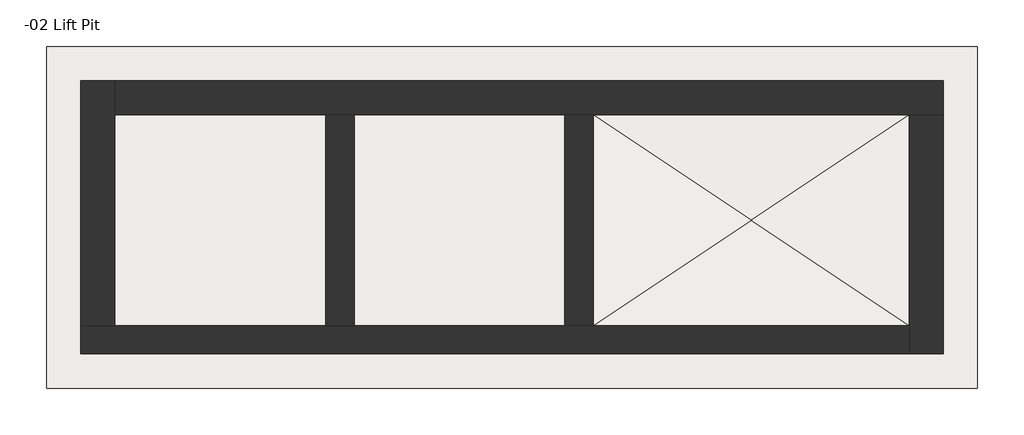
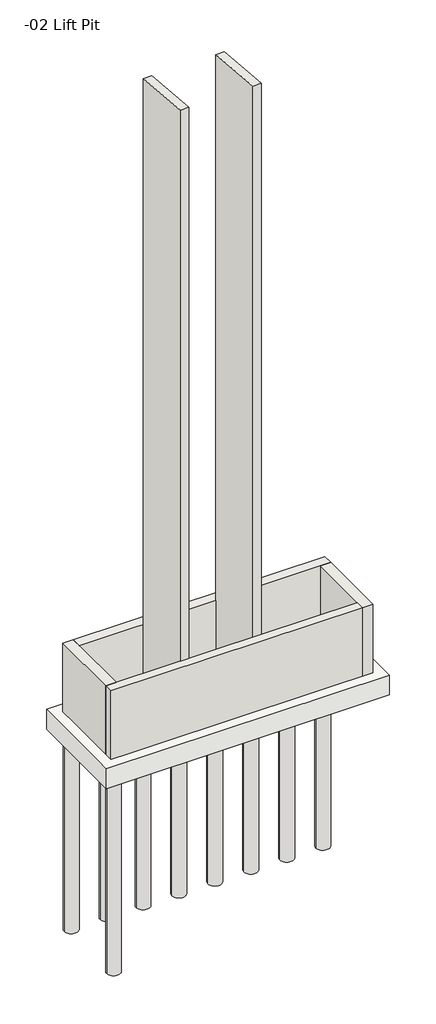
# One storey: 11 slabs, 6 walls.
"""IFC4 building model written with IfcOpenShell, lengths in millimetres."""

import ifcopenshell
import ifcopenshell.guid

model = None  # the IFC model being written
_history = None  # IfcOwnerHistory: only IFC2X3 demands one
_inside = {}  # id of a spatial element -> (the spatial element, [elements in it])
_under = {}  # id of a project, library or spatial element -> (it, [spatial elements below it])
_declared = {}  # id of a project -> (the project, [libraries it declares])
_typed = {}  # id of a type object -> (the type object, [elements of that type])
_made_of = {}  # id of a material, layer set ... -> (it, [elements and type objects made of it])


def new_model(schema):
    """Start an empty IFC model of exactly this schema.

    Asked for "IFC4X3", IfcOpenShell would pick the latest addendum, in which some entities
    have other attributes; the version numbers below select the first issue.
    IFC2X3 requires an IfcOwnerHistory on every rooted entity: one is made here for all.
    """
    global model, _history
    if schema == "IFC4X3":
        model = ifcopenshell.file(schema_version=(4, 3, 0, 0))
    else:
        model = ifcopenshell.file(schema=schema)
    _inside.clear()
    _under.clear()
    _declared.clear()
    _typed.clear()
    _made_of.clear()
    _history = None
    if model.schema == "IFC2X3":
        org = make("IfcOrganization", Name="unknown")
        user = make(
            "IfcPersonAndOrganization",
            ThePerson=make("IfcPerson", FamilyName="unknown"),
            TheOrganization=org,
        )
        app = make(
            "IfcApplication",
            ApplicationDeveloper=org,
            Version="unknown",
            ApplicationFullName="unknown",
            ApplicationIdentifier="unknown",
        )
        _history = make(
            "IfcOwnerHistory",
            OwningUser=user,
            OwningApplication=app,
            ChangeAction="ADDED",
            CreationDate=0,
        )
    return model


def make(cls, **values):
    """One entity of the class cls with the attributes given. An attribute that is None is left unset."""
    return model.create_entity(
        cls, **{name: value for name, value in values.items() if value is not None}
    )


def rooted(cls, **values):
    """An entity with a GlobalId (a new one), such as an element, a storey or a relation."""
    return make(cls, GlobalId=ifcopenshell.guid.new(), OwnerHistory=_history, **values)


def si_unit(unit_type, name, prefix=None):
    """IfcSIUnit, for example si_unit("LENGTHUNIT", "METRE", prefix="MILLI")."""
    return make("IfcSIUnit", UnitType=unit_type, Prefix=prefix, Name=name)


def assignment(units):
    """IfcUnitAssignment: the units of a project."""
    return None if units is None else make("IfcUnitAssignment", Units=units)


def point(xyz):
    """IfcCartesianPoint."""
    return None if xyz is None else make("IfcCartesianPoint", Coordinates=xyz)


def direction(xyz):
    """IfcDirection."""
    return None if xyz is None else make("IfcDirection", DirectionRatios=xyz)


def frame(location, z_axis=None, x_axis=None):
    """IfcAxis2Placement3D, a coordinate frame: its origin and axes. An axis left out is left unset."""
    return make(
        "IfcAxis2Placement3D",
        Location=point(location),
        Axis=direction(z_axis),
        RefDirection=direction(x_axis),
    )


def frame_2d(location, x_axis=None):
    """IfcAxis2Placement2D, a coordinate frame in the plane: its origin and x axis."""
    return make(
        "IfcAxis2Placement2D", Location=point(location), RefDirection=direction(x_axis)
    )


def origin():
    """The frame at (0, 0, 0) with its axes left unset."""
    return frame((0.0, 0.0, 0.0))


def place(relative_to, where):
    """IfcLocalPlacement: puts the frame where relative to a parent placement (None: the world)."""
    return make(
        "IfcLocalPlacement", PlacementRelTo=relative_to, RelativePlacement=where
    )


def context(
    kind, dimensions, precision=None, world=None, true_north=None, identifier=None
):
    """IfcGeometricRepresentationContext, for example the 3D "Model" context."""
    return make(
        "IfcGeometricRepresentationContext",
        ContextIdentifier=identifier,
        ContextType=kind,
        CoordinateSpaceDimension=dimensions,
        Precision=precision,
        WorldCoordinateSystem=world,
        TrueNorth=true_north,
    )


def project(units=None, contexts=None):
    """IfcProject with its units and contexts."""
    return rooted(
        "IfcProject",
        Name="project",
        RepresentationContexts=contexts,
        UnitsInContext=assignment(units),
    )


def spatial(cls, under=None, at=None, **own):
    """A site, building, storey or space (cls), placed at a placement, below another one or the project."""
    s = rooted(cls, ObjectPlacement=at, **own)
    if under is not None:
        _under.setdefault(under.id(), (under, []))[1].append(s)
    return s


def polyline(points):
    """IfcPolyline through the points."""
    return make("IfcPolyline", Points=[point(p) for p in points])


def circle_curve(where, radius):
    """IfcCircle in the frame where."""
    return make("IfcCircle", Position=where, Radius=radius)


def trimmed(basis, trim1, trim2, sense, master):
    """IfcTrimmedCurve: the piece of a basis curve between two trims."""
    return make(
        "IfcTrimmedCurve",
        BasisCurve=basis,
        Trim1=trim1,
        Trim2=trim2,
        SenseAgreement=sense,
        MasterRepresentation=master,
    )


def segment(curve, same_sense, transition):
    """IfcCompositeCurveSegment."""
    return make(
        "IfcCompositeCurveSegment",
        Transition=transition,
        SameSense=same_sense,
        ParentCurve=curve,
    )


def composite_curve(segments, self_intersect=None):
    """IfcCompositeCurve: segments joined end to end."""
    return make("IfcCompositeCurve", Segments=segments, SelfIntersect=self_intersect)


def outline(outer, holes=None, kind="AREA"):
    """IfcArbitraryClosedProfileDef: a profile drawn as a closed curve; with holes, ...WithVoids."""
    if holes is None:
        return make("IfcArbitraryClosedProfileDef", ProfileType=kind, OuterCurve=outer)
    return make(
        "IfcArbitraryProfileDefWithVoids",
        ProfileType=kind,
        OuterCurve=outer,
        InnerCurves=holes,
    )


def extrude(swept, where, along, depth):
    """IfcExtrudedAreaSolid: the profile swept, set in the frame where, extruded along a direction by depth."""
    return make(
        "IfcExtrudedAreaSolid",
        SweptArea=swept,
        Position=where,
        ExtrudedDirection=direction(along),
        Depth=depth,
    )


def faces_of(points, faces, orient=None, outer=None):
    """IfcFace entities. A face is a list of loops; a loop is a list of indices into points, from 0.

    orient and outer hold one flag for each loop. By default every Orientation is true, the
    first loop of a face is its IfcFaceOuterBound and the others are IfcFaceBound.
    """
    made = []
    for i, loops in enumerate(faces):
        bounds = []
        for j, loop in enumerate(loops):
            is_outer = j == 0 if outer is None else outer[i][j]
            bounds.append(
                make(
                    "IfcFaceOuterBound" if is_outer else "IfcFaceBound",
                    Bound=make("IfcPolyLoop", Polygon=[points[k] for k in loop]),
                    Orientation=True if orient is None else orient[i][j],
                )
            )
        made.append(make("IfcFace", Bounds=bounds))
    return made


def faceted_brep(points, faces, orient=None, outer=None, voids=None):
    """IfcFacetedBrep: a solid bounded by flat faces; with voids (closed shells), ...WithVoids."""
    shared = [point(p) for p in points]
    hull = make("IfcClosedShell", CfsFaces=faces_of(shared, faces, orient, outer))
    if voids is None:
        return make("IfcFacetedBrep", Outer=hull)
    return make(
        "IfcFacetedBrepWithVoids",
        Outer=hull,
        Voids=[
            make(cls, CfsFaces=faces_of(shared, fs, o, b)) for cls, fs, o, b in voids
        ],
    )


def shape(context_of_items, identifier, shape_type, items):
    """IfcShapeRepresentation: the items that make up one representation, for example the "Body"."""
    return make(
        "IfcShapeRepresentation",
        ContextOfItems=context_of_items,
        RepresentationIdentifier=identifier,
        RepresentationType=shape_type,
        Items=items,
    )


def made_of(thing, what):
    """Note that an element or type object is made of a material, layer set ...; save() writes the relation."""
    if what is not None:
        _made_of.setdefault(what.id(), (what, []))[1].append(thing)
    return thing


def element(
    cls,
    number,
    at=None,
    inside=None,
    cuts=None,
    type_object=None,
    material=None,
    context=None,
    identifier="Body",
    shape_type=None,
    held_by="IfcProductDefinitionShape",
    body=None,
    shapes=None,
    **own,
):
    """One element of the class cls, such as IfcWall. Its Tag is "e" and its number.

    at: its placement. inside: the storey or other place that contains it. cuts: it is an
    opening in that element (IfcRelVoidsElement). A single representation is given by context,
    identifier, shape_type and body (its items); several are given by shapes. held_by: the class
    of the entity that holds the representations. save() writes the other relations.
    """
    e = rooted(cls, Tag="e%d" % number, ObjectPlacement=at, **own)
    if body is not None:
        shapes = [shape(context, identifier, shape_type, body)]
    if shapes is not None:
        e.Representation = make(held_by, Representations=shapes)
    if inside is not None:
        _inside.setdefault(inside.id(), (inside, []))[1].append(e)
    if cuts is not None:
        rooted(
            "IfcRelVoidsElement", RelatingBuildingElement=cuts, RelatedOpeningElement=e
        )
    if type_object is not None:
        _typed.setdefault(type_object.id(), (type_object, []))[1].append(e)
    return made_of(e, material)


def aggregate(whole, parts):
    """IfcRelAggregates: a whole, such as a stair, and the parts it consists of."""
    return rooted("IfcRelAggregates", RelatingObject=whole, RelatedObjects=parts)


def save(model, path):
    """Write the relations noted so far, then the file.

    IfcRelAggregates (storeys below a building ...), IfcRelContainedInSpatialStructure (elements
    in a storey), IfcRelDefinesByType, IfcRelAssociatesMaterial and IfcRelDeclares: one each for
    every whole, place, type object, material and project.
    """
    for whole, parts in _under.values():
        aggregate(whole, parts)
    for where, things in _inside.values():
        rooted(
            "IfcRelContainedInSpatialStructure",
            RelatedElements=things,
            RelatingStructure=where,
        )
    for kind, things in _typed.values():
        rooted("IfcRelDefinesByType", RelatedObjects=things, RelatingType=kind)
    for what, things in _made_of.values():
        rooted("IfcRelAssociatesMaterial", RelatedObjects=things, RelatingMaterial=what)
    for by, libraries in _declared.values():
        rooted("IfcRelDeclares", RelatingContext=by, RelatedDefinitions=libraries)
    model.write(path)


model = new_model("IFC4")

# Units and contexts
model_context = context("Model", 3, world=origin())
ifc_project = project(units=[si_unit("LENGTHUNIT", "METRE", prefix="MILLI")], contexts=[model_context])

# Site, building, storey
site = spatial("IfcSite", under=ifc_project)
building = spatial("IfcBuilding", under=site)
storey = spatial("IfcBuildingStorey", under=building, Name="-02 Lift Pit", Elevation=-2133.6)

# Slabs
placement = place(None, origin())
element("IfcSlab", 1, ObjectType="24\" Foundation Slab", at=placement, inside=storey, context=model_context, shape_type="SweptSolid", body=[
    extrude(outline(polyline([(18554.7, -2679.7), (18554.7, -5727.7), (10248.9, -5727.7), (10248.9, -2679.7), (18554.7, -2679.7)])), frame((0.0, 0.0, -2743.2), z_axis=(0.0, 0.0, 1.0), x_axis=(1.0, 0.0, 0.0)), (0.0, 0.0, 1.0), 609.6),
])
element("IfcSlab", 2, ObjectType="3\" Screed", at=placement, inside=storey, context=model_context, shape_type="Brep", body=[
    faceted_brep([(17945.1, -3289.3, -2133.6), (17945.1, -5168.9, -2133.6), (15125.7, -5168.9, -2133.6), (15125.7, -3289.3, -2133.6), (17945.1, -3289.3, -2057.4), (17945.1, -5168.9, -2057.4), (15125.7, -5168.9, -2057.4), (15125.7, -3289.3, -2057.4), (16535.4, -4229.1, -2108.2)], [[[0, 1, 2, 3]], [[1, 0, 4, 5]], [[2, 1, 5, 6]], [[3, 2, 6, 7]], [[0, 3, 7, 4]], [[7, 6, 8]], [[5, 4, 8]], [[6, 5, 8]], [[7, 8, 4]]]),
])
element("IfcSlab", 3, ObjectType="Pile-Steel Pipe : 16\" Diameter", at=placement, inside=storey, context=model_context, shape_type="SweptSolid", body=[
    extrude(outline(composite_curve([segment(trimmed(circle_curve(frame_2d((10706.1, -3136.9)), 203.2), [point((10502.9, -3136.9))], [point((10909.3, -3136.9))], False, "CARTESIAN"), True, "CONTINUOUS"), segment(trimmed(circle_curve(frame_2d((10706.1, -3136.9)), 203.2), [point((10909.3, -3136.9))], [point((10502.9, -3136.9))], False, "CARTESIAN"), True, "CONTINUOUS")], self_intersect=False)), frame((0.0, 0.0, -8839.2), z_axis=(0.0, 0.0, 1.0), x_axis=(1.0, 0.0, 0.0)), (0.0, 0.0, 1.0), 6096.0),
])
element("IfcSlab", 4, ObjectType="Pile-Steel Pipe : 16\" Diameter", at=placement, inside=storey, context=model_context, shape_type="SweptSolid", body=[
    extrude(outline(composite_curve([segment(trimmed(circle_curve(frame_2d((10706.1, -5295.9)), 203.2), [point((10502.9, -5295.9))], [point((10909.3, -5295.9))], False, "CARTESIAN"), True, "CONTINUOUS"), segment(trimmed(circle_curve(frame_2d((10706.1, -5295.9)), 203.2), [point((10909.3, -5295.9))], [point((10502.9, -5295.9))], False, "CARTESIAN"), True, "CONTINUOUS")], self_intersect=False)), frame((0.0, 0.0, -8839.2), z_axis=(0.0, 0.0, 1.0), x_axis=(1.0, 0.0, 0.0)), (0.0, 0.0, 1.0), 6096.0),
])
element("IfcSlab", 5, ObjectType="Pile-Steel Pipe : 16\" Diameter", at=placement, inside=storey, context=model_context, shape_type="SweptSolid", body=[
    extrude(outline(composite_curve([segment(trimmed(circle_curve(frame_2d((11762.0142857, -3136.9)), 203.2), [point((11558.8142857, -3136.9))], [point((11965.2142857, -3136.9))], False, "CARTESIAN"), True, "CONTINUOUS"), segment(trimmed(circle_curve(frame_2d((11762.0142857, -3136.9)), 203.2), [point((11965.2142857, -3136.9))], [point((11558.8142857, -3136.9))], False, "CARTESIAN"), True, "CONTINUOUS")], self_intersect=False)), frame((0.0, 0.0, -8839.2), z_axis=(0.0, 0.0, 1.0), x_axis=(1.0, 0.0, 0.0)), (0.0, 0.0, 1.0), 6096.0),
])
element("IfcSlab", 6, ObjectType="Pile-Steel Pipe : 16\" Diameter", at=placement, inside=storey, context=model_context, shape_type="SweptSolid", body=[
    extrude(outline(composite_curve([segment(trimmed(circle_curve(frame_2d((12817.9285714, -3136.9)), 203.2), [point((12614.7285714, -3136.9))], [point((13021.1285714, -3136.9))], False, "CARTESIAN"), True, "CONTINUOUS"), segment(trimmed(circle_curve(frame_2d((12817.9285714, -3136.9)), 203.2), [point((13021.1285714, -3136.9))], [point((12614.7285714, -3136.9))], False, "CARTESIAN"), True, "CONTINUOUS")], self_intersect=False)), frame((0.0, 0.0, -8839.2), z_axis=(0.0, 0.0, 1.0), x_axis=(1.0, 0.0, 0.0)), (0.0, 0.0, 1.0), 6096.0),
])
element("IfcSlab", 7, ObjectType="Pile-Steel Pipe : 16\" Diameter", at=placement, inside=storey, context=model_context, shape_type="SweptSolid", body=[
    extrude(outline(composite_curve([segment(trimmed(circle_curve(frame_2d((13873.8428571, -3136.9)), 203.2), [point((13670.6428571, -3136.9))], [point((14077.0428571, -3136.9))], False, "CARTESIAN"), True, "CONTINUOUS"), segment(trimmed(circle_curve(frame_2d((13873.8428571, -3136.9)), 203.2), [point((14077.0428571, -3136.9))], [point((13670.6428571, -3136.9))], False, "CARTESIAN"), True, "CONTINUOUS")], self_intersect=False)), frame((0.0, 0.0, -8839.2), z_axis=(0.0, 0.0, 1.0), x_axis=(1.0, 0.0, 0.0)), (0.0, 0.0, 1.0), 6096.0),
])
element("IfcSlab", 8, ObjectType="Pile-Steel Pipe : 16\" Diameter", at=placement, inside=storey, context=model_context, shape_type="SweptSolid", body=[
    extrude(outline(composite_curve([segment(trimmed(circle_curve(frame_2d((14929.7571429, -3136.9)), 203.2), [point((14726.5571429, -3136.9))], [point((15132.9571429, -3136.9))], False, "CARTESIAN"), True, "CONTINUOUS"), segment(trimmed(circle_curve(frame_2d((14929.7571429, -3136.9)), 203.2), [point((15132.9571429, -3136.9))], [point((14726.5571429, -3136.9))], False, "CARTESIAN"), True, "CONTINUOUS")], self_intersect=False)), frame((0.0, 0.0, -8839.2), z_axis=(0.0, 0.0, 1.0), x_axis=(1.0, 0.0, 0.0)), (0.0, 0.0, 1.0), 6096.0),
])
element("IfcSlab", 9, ObjectType="Pile-Steel Pipe : 16\" Diameter", at=placement, inside=storey, context=model_context, shape_type="SweptSolid", body=[
    extrude(outline(composite_curve([segment(trimmed(circle_curve(frame_2d((15985.6714286, -3136.9)), 203.2), [point((15782.4714286, -3136.9))], [point((16188.8714286, -3136.9))], False, "CARTESIAN"), True, "CONTINUOUS"), segment(trimmed(circle_curve(frame_2d((15985.6714286, -3136.9)), 203.2), [point((16188.8714286, -3136.9))], [point((15782.4714286, -3136.9))], False, "CARTESIAN"), True, "CONTINUOUS")], self_intersect=False)), frame((0.0, 0.0, -8839.2), z_axis=(0.0, 0.0, 1.0), x_axis=(1.0, 0.0, 0.0)), (0.0, 0.0, 1.0), 6096.0),
])
element("IfcSlab", 10, ObjectType="Pile-Steel Pipe : 16\" Diameter", at=placement, inside=storey, context=model_context, shape_type="SweptSolid", body=[
    extrude(outline(composite_curve([segment(trimmed(circle_curve(frame_2d((17041.5857143, -3136.9)), 203.2), [point((16838.3857143, -3136.9))], [point((17244.7857143, -3136.9))], False, "CARTESIAN"), True, "CONTINUOUS"), segment(trimmed(circle_curve(frame_2d((17041.5857143, -3136.9)), 203.2), [point((17244.7857143, -3136.9))], [point((16838.3857143, -3136.9))], False, "CARTESIAN"), True, "CONTINUOUS")], self_intersect=False)), frame((0.0, 0.0, -8839.2), z_axis=(0.0, 0.0, 1.0), x_axis=(1.0, 0.0, 0.0)), (0.0, 0.0, 1.0), 6096.0),
])
element("IfcSlab", 11, ObjectType="Pile-Steel Pipe : 16\" Diameter", at=placement, inside=storey, context=model_context, shape_type="SweptSolid", body=[
    extrude(outline(composite_curve([segment(trimmed(circle_curve(frame_2d((18097.5, -3136.9)), 203.2), [point((17894.3, -3136.9))], [point((18300.7, -3136.9))], False, "CARTESIAN"), True, "CONTINUOUS"), segment(trimmed(circle_curve(frame_2d((18097.5, -3136.9)), 203.2), [point((18300.7, -3136.9))], [point((17894.3, -3136.9))], False, "CARTESIAN"), True, "CONTINUOUS")], self_intersect=False)), frame((0.0, 0.0, -8839.2), z_axis=(0.0, 0.0, 1.0), x_axis=(1.0, 0.0, 0.0)), (0.0, 0.0, 1.0), 6096.0),
])

# Walls
element("IfcWall", 12, ObjectType="RC Wall 10\"", at=placement, inside=storey, context=model_context, shape_type="SweptSolid", body=[
    extrude(outline(polyline([(-5168.9, -2133.6), (-5168.9, 17120.2613657), (-3289.3, 16955.8176737), (-3289.3, -2133.6), (-5168.9, -2133.6)])), frame((12738.1, 0.0, 0.0), z_axis=(1.0, 0.0, 0.0), x_axis=(0.0, 1.0, 0.0)), (0.0, 0.0, 1.0), 254.0),
])
element("IfcWall", 13, ObjectType="RC Wall 10\"", at=placement, inside=storey, context=model_context, shape_type="SweptSolid", body=[
    extrude(outline(polyline([(-5168.9, -2133.6), (-5168.9, 17120.2613657), (-3289.3, 16955.8176737), (-3289.3, -2133.6), (-5168.9, -2133.6)])), frame((14871.7, 0.0, 0.0), z_axis=(1.0, 0.0, 0.0), x_axis=(0.0, 1.0, 0.0)), (0.0, 0.0, 1.0), 254.0),
])
element("IfcWall", 14, ObjectType="RC Wall 10\"", at=placement, inside=storey, context=model_context, shape_type="Brep", body=[
    faceted_brep([(10553.7, -5422.9, -2133.6), (17945.1, -5422.9, -2133.6), (17945.1, -5422.9, 0.0), (10553.7, -5422.9, 0.0), (10553.7, -5168.9, -2133.6), (10553.7, -5168.9, 0.0), (10858.5, -5168.9, 0.0), (17945.1, -5168.9, 0.0), (17945.1, -5168.9, -2133.6), (15125.7, -5168.9, -2133.6), (14871.7, -5168.9, -2133.6), (12992.1, -5168.9, -2133.6), (12738.1, -5168.9, -2133.6), (10858.5, -5168.9, -2133.6)], [[[0, 1, 2, 3]], [[4, 5, 6, 7, 8, 9, 10, 11, 12, 13]], [[1, 0, 4, 13, 12, 11, 10, 9, 8]], [[3, 2, 7, 6, 5]], [[0, 3, 5, 4]], [[2, 1, 8, 7]]]),
])
element("IfcWall", 15, ObjectType="RC Wall 12\"", at=placement, inside=storey, context=model_context, shape_type="Brep", body=[
    faceted_brep([(10553.7, -2984.5, -2133.6), (10553.7, -5168.9, -2133.6), (10553.7, -5168.9, 0.0), (10553.7, -2984.5, 0.0), (10858.5, -2984.5, -2133.6), (10858.5, -2984.5, 0.0), (10858.5, -3289.3, 0.0), (10858.5, -5168.9, 0.0), (10858.5, -5168.9, -2133.6), (10858.5, -3289.3, -2133.6)], [[[0, 1, 2, 3]], [[4, 5, 6, 7, 8, 9]], [[1, 0, 4, 9, 8]], [[3, 2, 7, 6, 5]], [[0, 3, 5, 4]], [[2, 1, 8, 7]]]),
])
element("IfcWall", 16, ObjectType="RC Wall 12\"", at=placement, inside=storey, context=model_context, shape_type="Brep", body=[
    faceted_brep([(18249.9, -2984.5, -2133.6), (10858.5, -2984.5, -2133.6), (10858.5, -2984.5, 0.0), (18249.9, -2984.5, 0.0), (18249.9, -3289.3, -2133.6), (18249.9, -3289.3, 0.0), (17945.1, -3289.3, 0.0), (10858.5, -3289.3, 0.0), (10858.5, -3289.3, -2133.6), (12738.1, -3289.3, -2133.6), (12992.1, -3289.3, -2133.6), (14871.7, -3289.3, -2133.6), (15125.7, -3289.3, -2133.6), (17945.1, -3289.3, -2133.6)], [[[0, 1, 2, 3]], [[4, 5, 6, 7, 8, 9, 10, 11, 12, 13]], [[1, 0, 4, 13, 12, 11, 10, 9, 8]], [[3, 2, 7, 6, 5]], [[0, 3, 5, 4]], [[2, 1, 8, 7]]]),
])
element("IfcWall", 17, ObjectType="RC Wall 12\"", at=placement, inside=storey, context=model_context, shape_type="Brep", body=[
    faceted_brep([(18249.9, -5422.9, -2133.6), (18249.9, -3289.3, -2133.6), (18249.9, -3289.3, 0.0), (18249.9, -5422.9, 0.0), (17945.1, -5422.9, -2133.6), (17945.1, -5422.9, 0.0), (17945.1, -5168.9, 0.0), (17945.1, -3289.3, 0.0), (17945.1, -3289.3, -2133.6), (17945.1, -5168.9, -2133.6)], [[[0, 1, 2, 3]], [[4, 5, 6, 7, 8, 9]], [[1, 0, 4, 9, 8]], [[3, 2, 7, 6, 5]], [[0, 3, 5, 4]], [[2, 1, 8, 7]]]),
])

save(model, "model.ifc")
